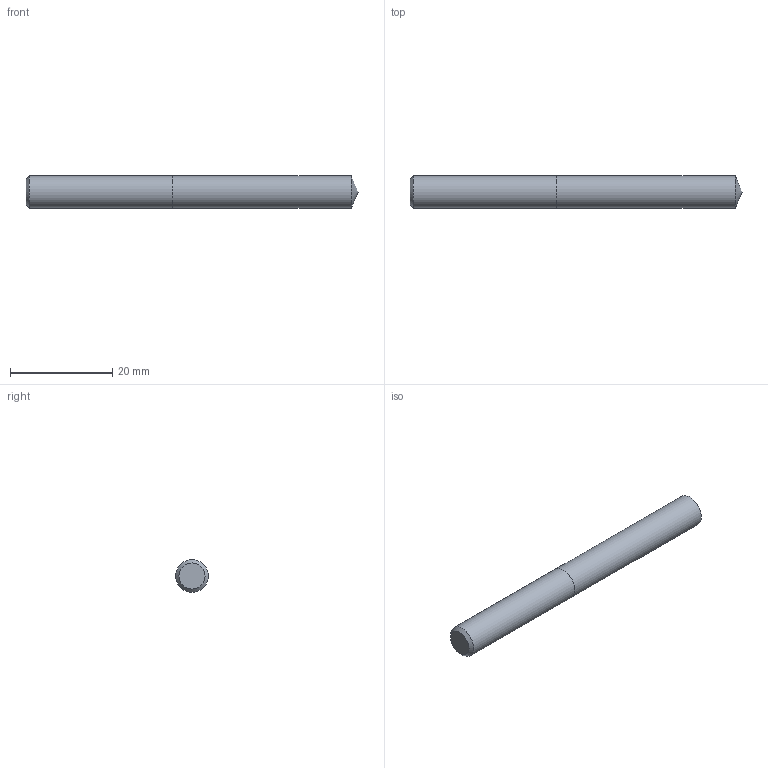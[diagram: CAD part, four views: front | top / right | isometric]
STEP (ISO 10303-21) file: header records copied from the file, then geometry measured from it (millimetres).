
FILE_DESCRIPTION (( 'STEP AP214' ), '1' );
FILE_NAME ('03-2321.STEP', '2022-06-03T06:11:05', ( 'USER' ), ( '' ), 'SwSTEP 2.0', 'SolidWorks 2018', '' );
FILE_SCHEMA (( 'AUTOMOTIVE_DESIGN' ));
Length unit declared in the file: inch
Products named in the file (1): 03-2321
Bounding box: 64.82 x 6.35 x 6.35 mm (x, y, z)
Volume: 2021.1 mm3; surface area: 1388.1 mm2
Topology: 2 solids, 2 shells, 7 faces, 11 edges, 7 vertices
Faces by surface type: plane 3, cylinder 2, cone 2
Full cylindrical faces by diameter (mm): 6.35 x2
Entity records: 214 total; most frequent: DIRECTION 26, CARTESIAN_POINT 18, AXIS2_PLACEMENT_3D 13, EDGE_LOOP 10, ORIENTED_EDGE 10, FACE_OUTER_BOUND 9, DIMENSIONAL_EXPONENTS 7, ADVANCED_FACE 7
